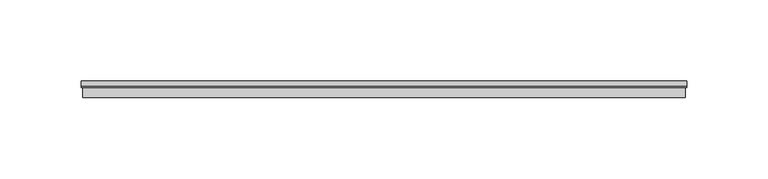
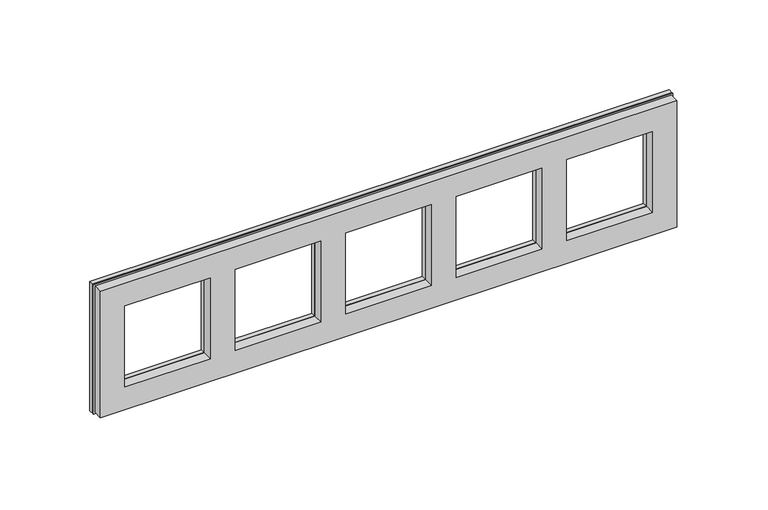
"""IFC4 building model written with IfcOpenShell, lengths in millimetres: proxy geometry, IEK_Brite_Рамка : x5_РУ-5-Бр беж. рифленый."""

from ifc_helpers import new_model, si_unit, frame, origin, place, context, project, spatial, polyline, outline, extrude, faceted_brep, source, transform, mapped, element, save


def electrical_fixtures_237118b2(model_context):
    return source(origin(), model_context, "Body", "SolidModel", [
        extrude(outline(polyline([(44.0, -328.0), (-44.0, -328.0), (-44.0, 44.0), (44.0, 44.0), (44.0, -328.0)]), holes=[polyline([(-27.5, -98.5), (27.5, -98.5), (27.5, -43.5), (-27.5, -43.5), (-27.5, -98.5)]), polyline([(-27.5, -169.5), (27.5, -169.5), (27.5, -114.5), (-27.5, -114.5), (-27.5, -169.5)]), polyline([(-27.5, -240.5), (27.5, -240.5), (27.5, -185.5), (-27.5, -185.5), (-27.5, -240.5)]), polyline([(-27.5, -27.5), (27.5, -27.5), (27.5, 27.5), (-27.5, 27.5), (-27.5, -27.5)]), polyline([(-27.5, -311.5), (27.5, -311.5), (27.5, -256.5), (-27.5, -256.5), (-27.5, -311.5)])]), frame((0.0, 7.0, 0.0), z_axis=(0.0, 1.0, 0.0), x_axis=(0.0, 0.0, 1.0)), (0.0, 0.0, 1.0), 3.0),
        faceted_brep([(-328.0, 7.0, 44.0), (44.0, 7.0, 44.0), (44.0, 7.0, -44.0), (-328.0, 7.0, -44.0), (-240.5, 7.0, 27.5), (-240.5, 7.0, -27.5), (-185.5, 7.0, -27.5), (-185.5, 7.0, 27.5), (-169.5, 7.0, 27.5), (-169.5, 7.0, -27.5), (-114.5, 7.0, -27.5), (-114.5, 7.0, 27.5), (-98.5, 7.0, 27.5), (-98.5, 7.0, -27.5), (-43.5, 7.0, -27.5), (-43.5, 7.0, 27.5), (-27.5, 7.0, 27.5), (-27.5, 7.0, -27.5), (27.5, 7.0, -27.5), (27.5, 7.0, 27.5), (-311.5, 7.0, 27.5), (-311.5, 7.0, -27.5), (-256.5, 7.0, -27.5), (-256.5, 7.0, 27.5), (-327.0, 0.0, 43.0), (-327.0, 0.0, -43.0), (43.0, 0.0, -43.0), (43.0, 0.0, 43.0), (-240.5, 0.0, -27.5), (-240.5, 0.0, 27.5), (-185.5, 0.0, 27.5), (-185.5, 0.0, -27.5), (-169.5, 0.0, -27.5), (-169.5, 0.0, 27.5), (-114.5, 0.0, 27.5), (-114.5, 0.0, -27.5), (-98.5, 0.0, -27.5), (-98.5, 0.0, 27.5), (-43.5, 0.0, 27.5), (-43.5, 0.0, -27.5), (-27.5, 0.0, -27.5), (-27.5, 0.0, 27.5), (27.5, 0.0, 27.5), (27.5, 0.0, -27.5), (-311.5, 0.0, -27.5), (-311.5, 0.0, 27.5), (-256.5, 0.0, 27.5), (-256.5, 0.0, -27.5), (-327.0, 6.0, 43.0), (-327.0, 6.0, -43.0), (43.0, 6.0, -43.0), (43.0, 6.0, 43.0), (-328.0, 6.0, 44.0), (-328.0, 6.0, -44.0), (44.0, 6.0, -44.0), (44.0, 6.0, 44.0)], [[[0, 1, 2, 3], [4, 5, 6, 7], [8, 9, 10, 11], [12, 13, 14, 15], [16, 17, 18, 19], [20, 21, 22, 23]], [[24, 25, 26, 27], [28, 29, 30, 31], [32, 33, 34, 35], [36, 37, 38, 39], [40, 41, 42, 43], [44, 45, 46, 47]], [[25, 24, 48, 49]], [[26, 25, 49, 50]], [[27, 26, 50, 51]], [[24, 27, 51, 48]], [[52, 53, 54, 55], [49, 48, 51, 50]], [[53, 52, 0, 3]], [[54, 53, 3, 2]], [[55, 54, 2, 1]], [[52, 55, 1, 0]], [[4, 29, 28, 5]], [[5, 28, 31, 6]], [[6, 31, 30, 7]], [[29, 4, 7, 30]], [[8, 33, 32, 9]], [[9, 32, 35, 10]], [[10, 35, 34, 11]], [[33, 8, 11, 34]], [[12, 37, 36, 13]], [[13, 36, 39, 14]], [[14, 39, 38, 15]], [[37, 12, 15, 38]], [[16, 41, 40, 17]], [[17, 40, 43, 18]], [[18, 43, 42, 19]], [[41, 16, 19, 42]], [[20, 45, 44, 21]], [[21, 44, 47, 22]], [[22, 47, 46, 23]], [[45, 20, 23, 46]]]),
    ])


if __name__ == "__main__":
    model = new_model("IFC4")
    model_context = context("Model", 3, world=origin())
    ifc_project = project(units=[si_unit("LENGTHUNIT", "METRE", prefix="MILLI")], contexts=[model_context])
    site = spatial("IfcSite", under=ifc_project)
    building = spatial("IfcBuilding", under=site)
    placement = place(None, origin())
    electrical_fixtures_shape = electrical_fixtures_237118b2(model_context)
    element("IfcBuildingElementProxy", 1, Name="IEK_Brite_Рамка : x5_РУ-5-Бр беж. рифленый", ObjectType="IEK_Brite_Рамка : x5_РУ-5-Бр беж. рифленый", at=placement, inside=building, context=model_context, shape_type="MappedRepresentation", body=[
        mapped(electrical_fixtures_shape, transform((0.0, 0.0, 0.0), x_axis=(1.0, 0.0, 0.0), y_axis=(0.0, 1.0, 0.0), z_axis=(0.0, 0.0, 1.0))),
    ])
    save(model, "model.ifc")
